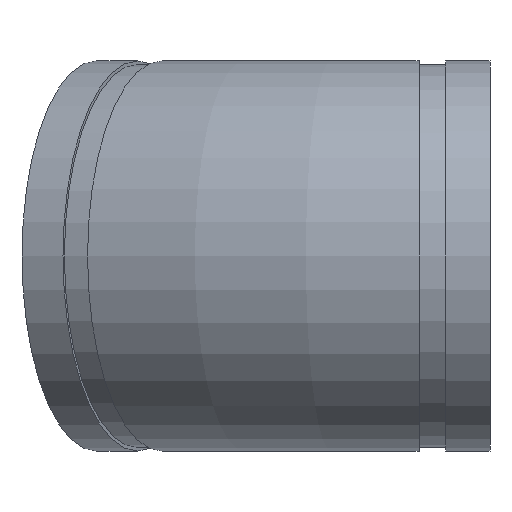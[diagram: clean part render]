
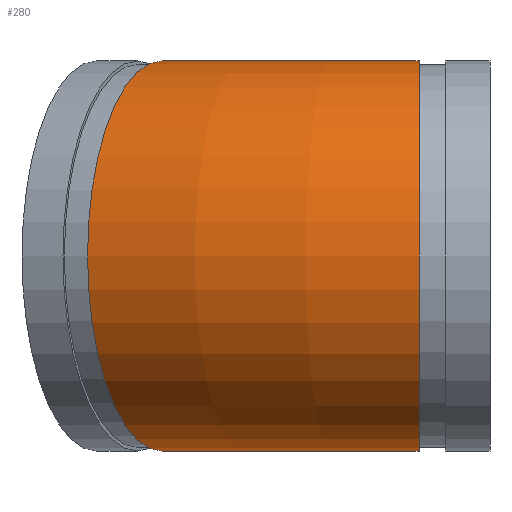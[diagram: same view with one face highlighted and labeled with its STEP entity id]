
A CAD part, left-side view. The second image highlights one B-rep face of the part: STEP entity #280.
In plain terms, the highlighted toroidal (fillet/blend) face has major radius 240.065 mm and minor radius 69.85 mm.
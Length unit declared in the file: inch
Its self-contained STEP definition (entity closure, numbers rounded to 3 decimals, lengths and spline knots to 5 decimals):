
#46=TOROIDAL_SURFACE('',#335,9.4514,2.75);
#78=FACE_OUTER_BOUND('',#96,.T.);
#96=EDGE_LOOP('',(#221,#222,#223,#224,#225,#226));
#105=CIRCLE('',#308,2.75);
#106=CIRCLE('',#309,2.75);
#116=CIRCLE('',#323,2.75);
#117=CIRCLE('',#324,2.75);
#126=CIRCLE('',#336,6.7014);
#131=VERTEX_POINT('',#476);
#132=VERTEX_POINT('',#477);
#142=VERTEX_POINT('',#504);
#143=VERTEX_POINT('',#505);
#155=EDGE_CURVE('',#131,#132,#105,.T.);
#156=EDGE_CURVE('',#132,#131,#106,.T.);
#168=EDGE_CURVE('',#142,#143,#116,.T.);
#169=EDGE_CURVE('',#143,#142,#117,.T.);
#178=EDGE_CURVE('',#132,#143,#126,.T.);
#221=ORIENTED_EDGE('',*,*,#155,.T.);
#222=ORIENTED_EDGE('',*,*,#178,.T.);
#223=ORIENTED_EDGE('',*,*,#169,.T.);
#224=ORIENTED_EDGE('',*,*,#168,.T.);
#225=ORIENTED_EDGE('',*,*,#178,.F.);
#226=ORIENTED_EDGE('',*,*,#156,.T.);
#280=ADVANCED_FACE('',(#78),#46,.T.);
#308=AXIS2_PLACEMENT_3D('',#478,#364,#365);
#309=AXIS2_PLACEMENT_3D('',#479,#366,#367);
#323=AXIS2_PLACEMENT_3D('',#506,#396,#397);
#324=AXIS2_PLACEMENT_3D('',#507,#398,#399);
#335=AXIS2_PLACEMENT_3D('',#525,#420,#421);
#336=AXIS2_PLACEMENT_3D('',#526,#422,#423);
#364=DIRECTION('center_axis',(-0.383,-0.924,0.));
#365=DIRECTION('ref_axis',(0.924,-0.383,0.));
#366=DIRECTION('center_axis',(-0.383,-0.924,0.));
#367=DIRECTION('ref_axis',(0.924,-0.383,0.));
#396=DIRECTION('center_axis',(0.,1.,0.));
#397=DIRECTION('ref_axis',(1.,0.,0.));
#398=DIRECTION('center_axis',(0.,1.,0.));
#399=DIRECTION('ref_axis',(1.,0.,0.));
#420=DIRECTION('center_axis',(0.,0.,-1.));
#421=DIRECTION('ref_axis',(-1.,0.,0.));
#422=DIRECTION('center_axis',(0.,0.,1.));
#423=DIRECTION('ref_axis',(-1.,0.,0.));
#476=CARTESIAN_POINT('',(0.71944,4.61689,2.75));
#477=CARTESIAN_POINT('',(3.26011,3.56451,0.));
#478=CARTESIAN_POINT('Origin',(0.71944,4.61689,0.));
#479=CARTESIAN_POINT('Origin',(0.71944,4.61689,0.));
#504=CARTESIAN_POINT('',(0.,1.,2.75));
#505=CARTESIAN_POINT('',(2.75,1.,0.));
#506=CARTESIAN_POINT('Origin',(0.,1.,0.));
#507=CARTESIAN_POINT('Origin',(0.,1.,0.));
#525=CARTESIAN_POINT('Origin',(9.4514,1.,0.));
#526=CARTESIAN_POINT('Origin',(9.4514,1.,0.));
